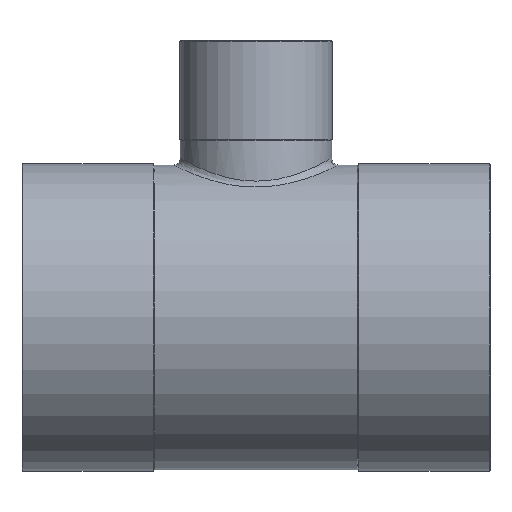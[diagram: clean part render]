
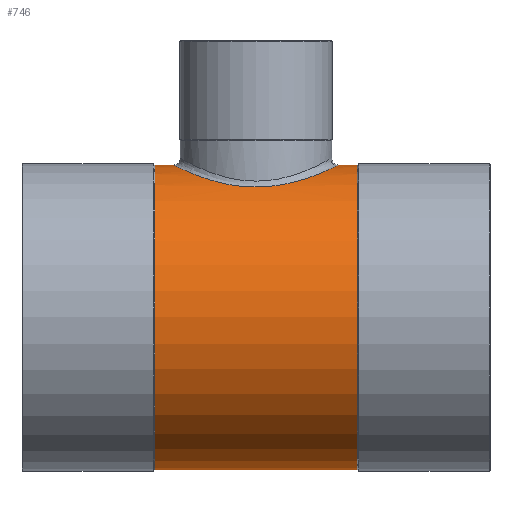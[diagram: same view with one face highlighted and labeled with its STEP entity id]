
A CAD part, top view. The second image highlights one B-rep face of the part: STEP entity #746.
In plain terms, the highlighted cylindrical face has radius 46.25 mm (diameter 92.5 mm), a partial arc.
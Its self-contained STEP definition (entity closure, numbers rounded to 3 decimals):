
#133=CARTESIAN_POINT('',(30.68,46.25,0.0));
#134=VERTEX_POINT('',#133);
#143=CARTESIAN_POINT('',(30.68,-46.25,0.));
#144=VERTEX_POINT('',#143);
#145=CARTESIAN_POINT('',(30.68,0.0,0.0));
#146=DIRECTION('',(1.0,0.0,0.0));
#147=DIRECTION('',(0.0,1.0,0.0));
#148=AXIS2_PLACEMENT_3D('',#145,#146,#147);
#149=CIRCLE('',#148,46.25);
#150=EDGE_CURVE('',#134,#144,#149,.T.);
#177=CARTESIAN_POINT('',(-30.68,46.25,0.0));
#178=VERTEX_POINT('',#177);
#194=CARTESIAN_POINT('',(-30.68,-46.25,0.));
#195=VERTEX_POINT('',#194);
#202=CARTESIAN_POINT('',(-30.68,0.0,0.0));
#203=DIRECTION('',(1.0,0.0,0.0));
#204=DIRECTION('',(0.0,1.0,0.0));
#205=AXIS2_PLACEMENT_3D('',#202,#203,#204);
#206=CIRCLE('',#205,46.25);
#207=EDGE_CURVE('',#178,#195,#206,.T.);
#698=CARTESIAN_POINT('',(15.34,0.0,0.0));
#699=DIRECTION('',(1.0,0.0,0.0));
#700=DIRECTION('',(0.0,1.0,0.0));
#701=AXIS2_PLACEMENT_3D('',#698,#699,#700);
#702=CYLINDRICAL_SURFACE('',#701,46.25);
#703=CARTESIAN_POINT('',(-25.075,46.25,0.));
#704=VERTEX_POINT('',#703);
#705=CARTESIAN_POINT('',(-30.68,46.25,0.0));
#706=DIRECTION('',(1.0,0.0,0.0));
#707=VECTOR('',#706,5.605);
#708=LINE('',#705,#707);
#709=EDGE_CURVE('',#178,#704,#708,.T.);
#710=ORIENTED_EDGE('',*,*,#709,.F.);
#711=ORIENTED_EDGE('',*,*,#207,.T.);
#712=CARTESIAN_POINT('',(30.68,-46.25,0.));
#713=DIRECTION('',(-1.0,0.0,0.0));
#714=VECTOR('',#713,61.36);
#715=LINE('',#712,#714);
#716=EDGE_CURVE('',#144,#195,#715,.T.);
#717=ORIENTED_EDGE('',*,*,#716,.F.);
#718=ORIENTED_EDGE('',*,*,#150,.F.);
#719=CARTESIAN_POINT('',(25.075,46.25,0.));
#720=VERTEX_POINT('',#719);
#721=CARTESIAN_POINT('',(25.075,46.25,0.));
#722=DIRECTION('',(1.0,0.0,0.0));
#723=VECTOR('',#722,5.605);
#724=LINE('',#721,#723);
#725=EDGE_CURVE('',#720,#134,#724,.T.);
#726=ORIENTED_EDGE('',*,*,#725,.F.);
#727=CARTESIAN_POINT('',(-25.075,46.25,0.));
#728=CARTESIAN_POINT('',(-25.075,46.25,0.787));
#729=CARTESIAN_POINT('',(-25.034,46.23,1.579));
#730=CARTESIAN_POINT('',(-24.408,45.92,7.628));
#731=CARTESIAN_POINT('',(-21.984,44.674,12.618));
#732=CARTESIAN_POINT('',(-15.305,42.083,19.472));
#733=CARTESIAN_POINT('',(-11.389,40.807,21.813));
#734=CARTESIAN_POINT('',(-2.601,39.405,24.255));
#735=CARTESIAN_POINT('',(2.215,39.381,24.289));
#736=CARTESIAN_POINT('',(13.614,41.106,21.303));
#737=CARTESIAN_POINT('',(19.452,43.624,16.64));
#738=CARTESIAN_POINT('',(24.206,45.804,7.202));
#739=CARTESIAN_POINT('',(25.075,46.25,3.602));
#740=CARTESIAN_POINT('',(25.075,46.25,0.));
#741=B_SPLINE_CURVE_WITH_KNOTS('',3,(#727,#728,#729,#730,#731,#732,#733,#734,#735,#736,#737,#738,#739,#740),.UNSPECIFIED.,.F.,.U.,(4,2,2,2,2,2,4),(3.531,3.75,5.214,6.436,7.657,9.595,10.594),.UNSPECIFIED.);
#742=EDGE_CURVE('',#704,#720,#741,.T.);
#743=ORIENTED_EDGE('',*,*,#742,.F.);
#744=EDGE_LOOP('',(#710,#711,#717,#718,#726,#743));
#745=FACE_OUTER_BOUND('',#744,.T.);
#746=ADVANCED_FACE('',(#745),#702,.T.);
